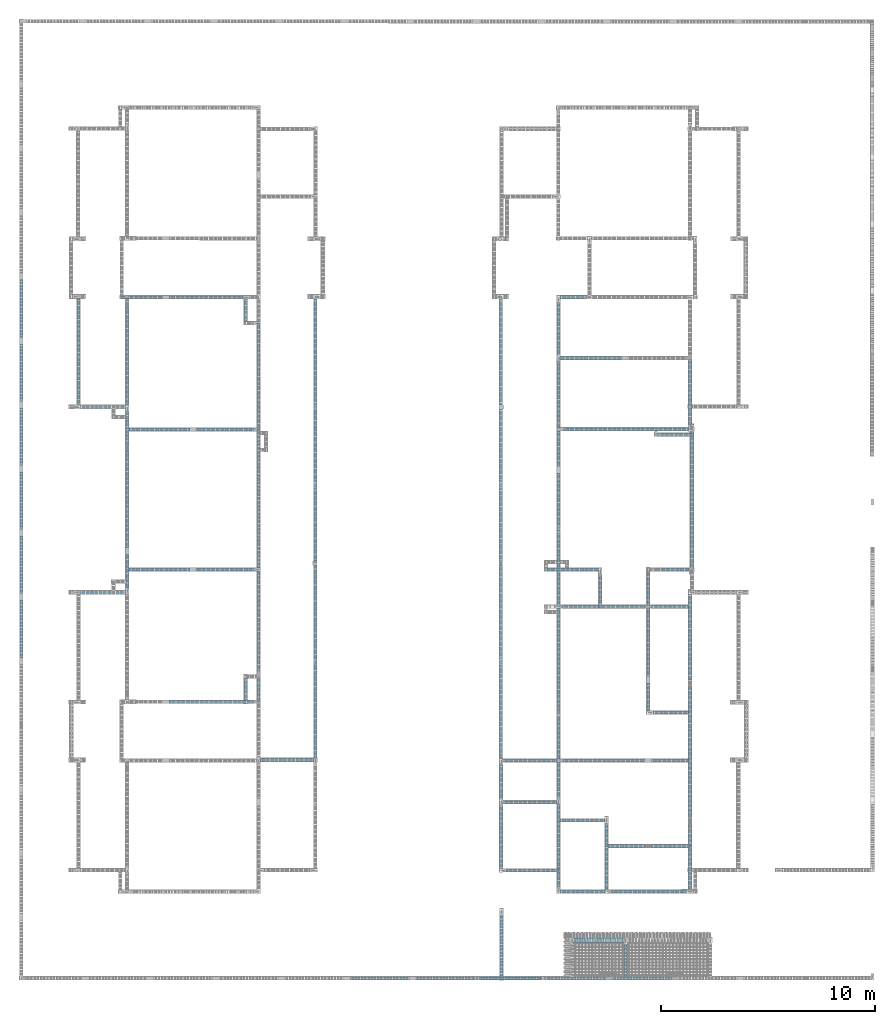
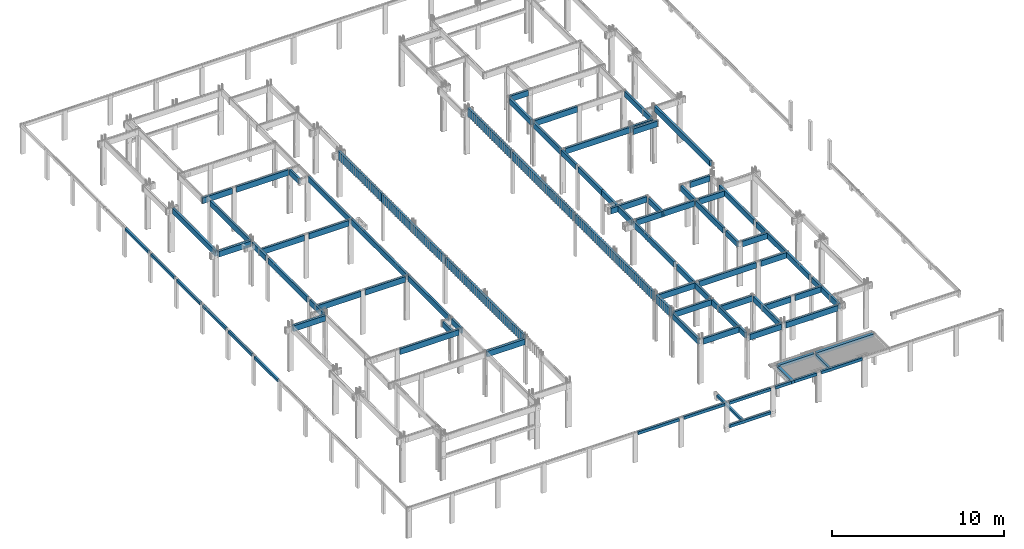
# One storey, part 3 of 236: 85 beams.
"""IFC4 building model written with IfcOpenShell, lengths in centimetres."""

from ifc_helpers import new_model, si_unit, derived_unit, frame, origin_with_axes, origin_2d_with_axis, place, context, project, spatial, rectangle, extrude, material, element, save


model = new_model("IFC4")

# Units and contexts
model_context = context("Model", 3, precision=1e-05, world=origin_with_axes(), identifier="Body")
ifc_project = project(units=[si_unit("LENGTHUNIT", "METRE", prefix="CENTI"), si_unit("VOLUMEUNIT", "CUBIC_METRE"), si_unit("AREAUNIT", "SQUARE_METRE"), si_unit("POWERUNIT", "WATT"), si_unit("LUMINOUSFLUXUNIT", "LUMEN"), si_unit("ELECTRICCURRENTUNIT", "AMPERE"), si_unit("PRESSUREUNIT", "PASCAL", prefix="KILO"), si_unit("MASSUNIT", "GRAM", prefix="KILO"), si_unit("PLANEANGLEUNIT", "RADIAN"), derived_unit("VOLUMETRICFLOWRATEUNIT", [(si_unit("LENGTHUNIT", "METRE"), 3), (si_unit("TIMEUNIT", "SECOND"), -1)])], contexts=[model_context])

# Site, building, storey
site_placement = place(None, frame((-4000.0, 0.0, 0.0), z_axis=(0.0, 0.0, 1.0), x_axis=(1.0, 0.0, 0.0)))
site = spatial("IfcSite", under=ifc_project, at=site_placement, Name="PADRÃO")
building_placement = place(site_placement, frame((0.0, 0.0, -14.0)))
building = spatial("IfcBuilding", under=site, at=building_placement, Name="CRECHE PRÉ-ESCOLA TIPO 2")
placement_1 = place(building_placement, origin_with_axes())
placement_2 = place(placement_1, frame((0.0, 0.0, 30.0), z_axis=(0.0, 0.0, 1.0), x_axis=(1.0, 0.0, 0.0)))
storey_placement = place(placement_2, frame((0.0, 0.0, 310.0), z_axis=(0.0, 0.0, 1.0), x_axis=(1.0, 0.0, 0.0)))
storey = spatial("IfcBuildingStorey", under=building, at=storey_placement, Name="TERREO", CompositionType="ELEMENT", Elevation=326.0)

# Beams
ifc_material = material(Name="Concreto")
beam_1_placement = place(storey_placement, frame((873.0, 3197.49, 0.0), z_axis=(0.0, 0.0, 1.0), x_axis=(1.0, 0.0, 0.0)))
element("IfcBeam", 1, at=beam_1_placement, inside=storey, material=ifc_material, Name="V216", context=model_context, shape_type="SolidModel", body=[
    extrude(rectangle(XDim=14.0, YDim=40.0, at=origin_2d_with_axis()), frame((-173.0, 0.0, -20.0), z_axis=(1.0, 0.0, 0.0), x_axis=(0.0, 1.0, 0.0)), (0.0, 0.0, 1.0), 346.0),
])
beam_2_placement = place(storey_placement, frame((571.095, 3197.49, 0.0), z_axis=(0.0, 0.0, 1.0), x_axis=(1.0, 0.0, 0.0)))
element("IfcBeam", 2, at=beam_2_placement, inside=storey, material=ifc_material, Name="V216", context=model_context, shape_type="SolidModel", body=[
    extrude(rectangle(XDim=14.0, YDim=40.0, at=origin_2d_with_axis()), frame((-98.905, 0.0, -20.0), z_axis=(1.0, 0.0, 0.0), x_axis=(0.0, 1.0, 0.0)), (0.0, 0.0, 1.0), 197.81),
])
beam_3_placement = place(storey_placement, frame((2591.75, 3197.52, 0.0), z_axis=(0.0, 0.0, 1.0), x_axis=(1.0, 0.0, 0.0)))
element("IfcBeam", 3, at=beam_3_placement, inside=storey, material=ifc_material, Name="V219", context=model_context, shape_type="SolidModel", body=[
    extrude(rectangle(XDim=14.0, YDim=40.0, at=origin_2d_with_axis()), frame((-61.25, 0.0, -20.0), z_axis=(1.0, 0.0, 0.0), x_axis=(0.0, 1.0, 0.0)), (0.0, 0.0, 1.0), 122.5),
])
beam_4_placement = place(storey_placement, frame((2674.75, 2912.52, 0.0), z_axis=(0.0, 0.0, 1.0), x_axis=(1.0, 0.0, 0.0)))
element("IfcBeam", 4, at=beam_4_placement, inside=storey, material=ifc_material, Name="V222", context=model_context, shape_type="SolidModel", body=[
    extrude(rectangle(XDim=14.0, YDim=40.0, at=origin_2d_with_axis()), frame((-144.25, 0.0, -20.0), z_axis=(1.0, 0.0, 0.0), x_axis=(0.0, 1.0, 0.0)), (0.0, 0.0, 1.0), 288.5),
])
beam_5_placement = place(storey_placement, frame((389.845, 2683.51, 0.0), z_axis=(0.0, 0.0, 1.0), x_axis=(1.0, 0.0, 0.0)))
element("IfcBeam", 5, at=beam_5_placement, inside=storey, material=ifc_material, Name="V223", context=model_context, shape_type="SolidModel", body=[
    extrude(rectangle(XDim=17.0, YDim=40.0, at=origin_2d_with_axis()), frame((-106.845, 0.0, -20.0), z_axis=(1.0, 0.0, 0.0), x_axis=(0.0, 1.0, 0.0)), (0.0, 0.0, 1.0), 213.69),
])
beam_6_placement = place(storey_placement, frame((650.04, 2577.5, 0.0), z_axis=(0.0, 0.0, 1.0), x_axis=(1.0, 0.0, 0.0)))
element("IfcBeam", 6, at=beam_6_placement, inside=storey, material=ifc_material, Name="V226", context=model_context, shape_type="SolidModel", body=[
    extrude(rectangle(XDim=14.0, YDim=40.0, at=origin_2d_with_axis()), frame((-146.35, 0.0, -20.0), z_axis=(1.0, 0.0, 0.0), x_axis=(0.0, 1.0, 0.0)), (0.0, 0.0, 1.0), 292.7),
])
beam_7_placement = place(storey_placement, frame((960.555, 2577.5, 0.0), z_axis=(0.0, 0.0, 1.0), x_axis=(1.0, 0.0, 0.0)))
element("IfcBeam", 7, at=beam_7_placement, inside=storey, material=ifc_material, Name="V226", context=model_context, shape_type="SolidModel", body=[
    extrude(rectangle(XDim=14.0, YDim=40.0, at=origin_2d_with_axis()), frame((-134.165, 0.0, -20.0), z_axis=(1.0, 0.0, 0.0), x_axis=(0.0, 1.0, 0.0)), (0.0, 0.0, 1.0), 268.33),
])
beam_8_placement = place(storey_placement, frame((2763.0, 2578.52, 0.0), z_axis=(0.0, 0.0, 1.0), x_axis=(1.0, 0.0, 0.0)))
element("IfcBeam", 8, at=beam_8_placement, inside=storey, material=ifc_material, Name="V228", context=model_context, shape_type="SolidModel", body=[
    extrude(rectangle(XDim=14.0, YDim=40.0, at=origin_2d_with_axis()), frame((-216.5, 0.0, -20.0), z_axis=(1.0, 0.0, 0.0), x_axis=(0.0, 1.0, 0.0)), (0.0, 0.0, 1.0), 433.0),
])
beam_9_placement = place(storey_placement, frame((3056.26, 2578.52, 0.0), z_axis=(0.0, 0.0, 1.0), x_axis=(1.0, 0.0, 0.0)))
element("IfcBeam", 9, at=beam_9_placement, inside=storey, material=ifc_material, Name="V228", context=model_context, shape_type="SolidModel", body=[
    extrude(rectangle(XDim=14.0, YDim=40.0, at=origin_2d_with_axis()), frame((-76.76, 0.0, -20.0), z_axis=(1.0, 0.0, 0.0), x_axis=(0.0, 1.0, 0.0)), (0.0, 0.0, 1.0), 153.52),
])
beam_10_placement = place(storey_placement, frame((3067.01, 2553.52, 0.0), z_axis=(0.0, 0.0, 1.0), x_axis=(1.0, 0.0, 0.0)))
element("IfcBeam", 10, at=beam_10_placement, inside=storey, material=ifc_material, Name="V229", context=model_context, shape_type="SolidModel", body=[
    extrude(rectangle(XDim=14.0, YDim=40.0, at=origin_2d_with_axis()), frame((-80.51, 0.0, -20.0), z_axis=(1.0, 0.0, 0.0), x_axis=(0.0, 1.0, 0.0)), (0.0, 0.0, 1.0), 161.02),
])
beam_11_placement = place(storey_placement, frame((650.04, 1922.5, 0.0), z_axis=(0.0, 0.0, 1.0), x_axis=(1.0, 0.0, 0.0)))
element("IfcBeam", 11, at=beam_11_placement, inside=storey, material=ifc_material, Name="V231", context=model_context, shape_type="SolidModel", body=[
    extrude(rectangle(XDim=14.0, YDim=40.0, at=origin_2d_with_axis()), frame((-146.35, 0.0, -20.0), z_axis=(1.0, 0.0, 0.0), x_axis=(0.0, 1.0, 0.0)), (0.0, 0.0, 1.0), 292.7),
])
beam_12_placement = place(storey_placement, frame((960.555, 1922.5, 0.0), z_axis=(0.0, 0.0, 1.0), x_axis=(1.0, 0.0, 0.0)))
element("IfcBeam", 12, at=beam_12_placement, inside=storey, material=ifc_material, Name="V231", context=model_context, shape_type="SolidModel", body=[
    extrude(rectangle(XDim=14.0, YDim=40.0, at=origin_2d_with_axis()), frame((-134.165, 0.0, -20.0), z_axis=(1.0, 0.0, 0.0), x_axis=(0.0, 1.0, 0.0)), (0.0, 0.0, 1.0), 268.33),
])
beam_13_placement = place(storey_placement, frame((2591.62400910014, 1922.48599061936, 0.0), z_axis=(0.0, 0.0, 1.0), x_axis=(1.0, 0.0, 0.0)))
element("IfcBeam", 13, at=beam_13_placement, inside=storey, material=ifc_material, Name="V232", context=model_context, shape_type="SolidModel", body=[
    extrude(rectangle(XDim=14.0, YDim=40.0, at=origin_2d_with_axis()), frame((-120.12599089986, -0.034009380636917, -20.0), z_axis=(1.0, 0.000283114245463, 0.0), x_axis=(-0.000283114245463, 1.0, 0.0)), (0.0, 0.0, 1.0), 240.251991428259),
])
beam_14_placement = place(storey_placement, frame((3067.76, 1922.52, 0.0), z_axis=(0.0, 0.0, 1.0), x_axis=(1.0, 0.0, 0.0)))
element("IfcBeam", 14, at=beam_14_placement, inside=storey, material=ifc_material, Name="V234", context=model_context, shape_type="SolidModel", body=[
    extrude(rectangle(XDim=14.0, YDim=40.0, at=origin_2d_with_axis()), frame((-65.26, 0.0, -20.0), z_axis=(1.0, 0.0, 0.0), x_axis=(0.0, 1.0, 0.0)), (0.0, 0.0, 1.0), 130.52),
])
beam_15_placement = place(storey_placement, frame((388.845, 1815.0, 0.0), z_axis=(0.0, 0.0, 1.0), x_axis=(1.0, 0.0, 0.0)))
element("IfcBeam", 15, at=beam_15_placement, inside=storey, material=ifc_material, Name="V236", context=model_context, shape_type="SolidModel", body=[
    extrude(rectangle(XDim=17.0, YDim=40.0, at=origin_2d_with_axis()), frame((-107.845, 0.0, -20.0), z_axis=(1.0, 0.0, 0.0), x_axis=(0.0, 1.0, 0.0)), (0.0, 0.0, 1.0), 215.69),
])
beam_16_placement = place(storey_placement, frame((2734.62, 1747.84, 0.0), z_axis=(0.0, 0.0, 1.0), x_axis=(1.0, 0.0, 0.0)))
element("IfcBeam", 16, at=beam_16_placement, inside=storey, material=ifc_material, Name="V238", context=model_context, shape_type="SolidModel", body=[
    extrude(rectangle(XDim=14.0, YDim=40.0, at=origin_2d_with_axis()), frame((-193.62, 0.0, -20.0), z_axis=(1.0, 0.0, 0.0), x_axis=(0.0, 1.0, 0.0)), (0.0, 0.0, 1.0), 387.24),
])
beam_17_placement = place(storey_placement, frame((3044.87, 1747.84, 0.0), z_axis=(0.0, 0.0, 1.0), x_axis=(1.0, 0.0, 0.0)))
element("IfcBeam", 17, at=beam_17_placement, inside=storey, material=ifc_material, Name="V238", context=model_context, shape_type="SolidModel", body=[
    extrude(rectangle(XDim=14.0, YDim=40.0, at=origin_2d_with_axis()), frame((-86.63, 0.0, -20.0), z_axis=(1.0, 0.0, 0.0), x_axis=(0.0, 1.0, 0.0)), (0.0, 0.0, 1.0), 173.26),
])
beam_18_placement = place(storey_placement, frame((897.36, 1302.5, 0.0), z_axis=(0.0, 0.0, 1.0), x_axis=(1.0, 0.0, 0.0)))
element("IfcBeam", 18, at=beam_18_placement, inside=storey, material=ifc_material, Name="V242", context=model_context, shape_type="SolidModel", body=[
    extrude(rectangle(XDim=14.0, YDim=40.0, at=origin_2d_with_axis()), frame((-197.36, 0.0, -20.0), z_axis=(1.0, 0.0, 0.0), x_axis=(0.0, 1.0, 0.0)), (0.0, 0.0, 1.0), 394.72),
])
beam_19_placement = place(storey_placement, frame((3048.87, 1252.52, 0.0), z_axis=(0.0, 0.0, 1.0), x_axis=(1.0, 0.0, 0.0)))
element("IfcBeam", 19, at=beam_19_placement, inside=storey, material=ifc_material, Name="V243", context=model_context, shape_type="SolidModel", body=[
    extrude(rectangle(XDim=14.0, YDim=40.0, at=origin_2d_with_axis()), frame((-82.63, 0.0, -20.0), z_axis=(1.0, 0.0, 0.0), x_axis=(0.0, 1.0, 0.0)), (0.0, 0.0, 1.0), 165.26),
])
beam_20_placement = place(storey_placement, frame((1251.78, 1030.01, 0.0), z_axis=(0.0, 0.0, 1.0), x_axis=(1.0, 0.0, 0.0)))
element("IfcBeam", 20, at=beam_20_placement, inside=storey, material=ifc_material, Name="V247", context=model_context, shape_type="SolidModel", body=[
    extrude(rectangle(XDim=17.0, YDim=40.0, at=origin_2d_with_axis()), frame((-126.06, 0.0, -20.0), z_axis=(1.0, 0.0, 0.0), x_axis=(0.0, 1.0, 0.0)), (0.0, 0.0, 1.0), 252.12),
])
beam_21_placement = place(storey_placement, frame((3044.87, 1027.52, 0.0), z_axis=(0.0, 0.0, 1.0), x_axis=(1.0, 0.0, 0.0)))
element("IfcBeam", 21, at=beam_21_placement, inside=storey, material=ifc_material, Name="V248", context=model_context, shape_type="SolidModel", body=[
    extrude(rectangle(XDim=14.0, YDim=40.0, at=origin_2d_with_axis()), frame((-86.63, 0.0, -20.0), z_axis=(1.0, 0.0, 0.0), x_axis=(0.0, 1.0, 0.0)), (0.0, 0.0, 1.0), 173.26),
])
beam_22_placement = place(storey_placement, frame((2737.37, 1027.52, 0.0), z_axis=(0.0, 0.0, 1.0), x_axis=(1.0, 0.0, 0.0)))
element("IfcBeam", 22, at=beam_22_placement, inside=storey, material=ifc_material, Name="V248", context=model_context, shape_type="SolidModel", body=[
    extrude(rectangle(XDim=14.0, YDim=40.0, at=origin_2d_with_axis()), frame((-190.87, 0.0, -20.0), z_axis=(1.0, 0.0, 0.0), x_axis=(0.0, 1.0, 0.0)), (0.0, 0.0, 1.0), 381.74),
])
for number, where, z_axis, x_axis, name in (
    (23, (2388.995, 1027.52, 0.0), (0.0, 0.0, 1.0), (1.0, 0.0, 0.0), "V248"),
    (24, (2388.995, 832.52, 0.0), (0.0, 0.0, 1.0), (1.0, 0.0, 0.0), "V250"),
):
    element("IfcBeam", number, at=place(storey_placement, frame(where, z_axis=z_axis, x_axis=x_axis)), inside=storey, material=ifc_material, Name=name, context=model_context, shape_type="SolidModel", body=[
        extrude(rectangle(XDim=14.0, YDim=40.0, at=origin_2d_with_axis()), frame((-127.505, 0.0, -20.0), z_axis=(1.0, 0.0, 0.0), x_axis=(0.0, 1.0, 0.0)), (0.0, 0.0, 1.0), 255.01),
    ])
beam_23_placement = place(storey_placement, frame((2635.51, 747.59, 0.0), z_axis=(0.0, 0.0, 1.0), x_axis=(1.0, 0.0, 0.0)))
element("IfcBeam", 25, at=beam_23_placement, inside=storey, material=ifc_material, Name="V251", context=model_context, shape_type="SolidModel", body=[
    extrude(rectangle(XDim=14.0, YDim=40.0, at=origin_2d_with_axis()), frame((-105.01, 0.0, -20.0), z_axis=(1.0, 0.0, 0.0), x_axis=(0.0, 1.0, 0.0)), (0.0, 0.0, 1.0), 210.02),
])
beam_24_placement = place(storey_placement, frame((3048.475, 627.58, 0.0), z_axis=(0.0, 0.0, 1.0), x_axis=(1.0, 0.0, 0.0)))
element("IfcBeam", 26, at=beam_24_placement, inside=storey, material=ifc_material, Name="V252", context=model_context, shape_type="SolidModel", body=[
    extrude(rectangle(XDim=14.0, YDim=40.0, at=origin_2d_with_axis()), frame((-90.025, 0.0, -20.0), z_axis=(1.0, 0.0, 0.0), x_axis=(0.0, 1.0, 0.0)), (0.0, 0.0, 1.0), 180.05),
])
beam_25_placement = place(storey_placement, frame((2841.955, 627.58, 0.0), z_axis=(0.0, 0.0, 1.0), x_axis=(1.0, 0.0, 0.0)))
element("IfcBeam", 27, at=beam_25_placement, inside=storey, material=ifc_material, Name="V252", context=model_context, shape_type="SolidModel", body=[
    extrude(rectangle(XDim=14.0, YDim=40.0, at=origin_2d_with_axis()), frame((-86.495, 0.0, -20.0), z_axis=(1.0, 0.0, 0.0), x_axis=(0.0, 1.0, 0.0)), (0.0, 0.0, 1.0), 172.99),
])
beam_26_placement = place(storey_placement, frame((2400.49, 513.52, 0.0), z_axis=(0.0, 0.0, 1.0), x_axis=(1.0, 0.0, 0.0)))
element("IfcBeam", 28, at=beam_26_placement, inside=storey, material=ifc_material, Name="V255", context=model_context, shape_type="SolidModel", body=[
    extrude(rectangle(XDim=14.0, YDim=40.0, at=origin_2d_with_axis()), frame((-123.01, 0.0, -20.0), z_axis=(1.0, 0.0, 0.0), x_axis=(0.0, 1.0, 0.0)), (0.0, 0.0, 1.0), 246.02),
])
beam_27_placement = place(storey_placement, frame((2635.98, 415.01, 0.0), z_axis=(0.0, 0.0, 1.0), x_axis=(1.0, 0.0, 0.0)))
element("IfcBeam", 29, at=beam_27_placement, inside=storey, material=ifc_material, Name="V258", context=model_context, shape_type="SolidModel", body=[
    extrude(rectangle(XDim=14.0, YDim=40.0, at=origin_2d_with_axis()), frame((-105.48, 0.0, -20.0), z_axis=(1.0, 0.0, 0.0), x_axis=(0.0, 1.0, 0.0)), (0.0, 0.0, 1.0), 210.96),
])
beam_28_placement = place(storey_placement, frame((2946.23, 415.01, 0.0), z_axis=(0.0, 0.0, 1.0), x_axis=(1.0, 0.0, 0.0)))
element("IfcBeam", 30, at=beam_28_placement, inside=storey, material=ifc_material, Name="V258", context=model_context, shape_type="SolidModel", body=[
    extrude(rectangle(XDim=14.0, YDim=40.0, at=origin_2d_with_axis()), frame((-174.77, 0.0, -20.0), z_axis=(1.0, 0.0, 0.0), x_axis=(0.0, 1.0, 0.0)), (0.0, 0.0, 1.0), 349.54),
])
beam_29_placement = place(storey_placement, frame((276.0, 2942.005, 0.0), z_axis=(0.0, 0.0, 1.0), x_axis=(1.0, 0.0, 0.0)))
element("IfcBeam", 31, at=beam_29_placement, inside=storey, material=ifc_material, Name="V262", context=model_context, shape_type="SolidModel", body=[
    extrude(rectangle(XDim=14.0, YDim=40.0, at=origin_2d_with_axis()), frame((0.0, -249.995, -20.0), z_axis=(0.0, 1.0, 0.0), x_axis=(-1.0, 0.0, 0.0)), (0.0, 0.0, 1.0), 499.99),
])
beam_30_placement = place(storey_placement, frame((503.69, 2919.255, 0.0), z_axis=(0.0, 0.0, 1.0), x_axis=(1.0, 0.0, 0.0)))
element("IfcBeam", 32, at=beam_30_placement, inside=storey, material=ifc_material, Name="V270", context=model_context, shape_type="SolidModel", body=[
    extrude(rectangle(XDim=14.0, YDim=40.0, at=origin_2d_with_axis()), frame((0.0, -227.245, -20.0), z_axis=(0.0, 1.0, 0.0), x_axis=(-1.0, 0.0, 0.0)), (0.0, 0.0, 1.0), 454.49),
])
beam_31_placement = place(storey_placement, frame((503.69, 1915.0, 0.0), z_axis=(0.0, 0.0, 1.0), x_axis=(1.0, 0.0, 0.0)))
element("IfcBeam", 33, at=beam_31_placement, inside=storey, material=ifc_material, Name="V270", context=model_context, shape_type="SolidModel", body=[
    extrude(rectangle(XDim=14.0, YDim=40.0, at=origin_2d_with_axis()), frame((0.0, -78.5, -20.0), z_axis=(0.0, 1.0, 0.0), x_axis=(-1.0, 0.0, 0.0)), (0.0, 0.0, 1.0), 157.0),
])
beam_32_placement = place(storey_placement, frame((503.69, 2250.0, 0.0), z_axis=(0.0, 0.0, 1.0), x_axis=(1.0, 0.0, 0.0)))
element("IfcBeam", 34, at=beam_32_placement, inside=storey, material=ifc_material, Name="V270", context=model_context, shape_type="SolidModel", body=[
    extrude(rectangle(XDim=14.0, YDim=40.0, at=origin_2d_with_axis()), frame((0.0, -226.5, -20.0), z_axis=(0.0, 1.0, 0.0), x_axis=(-1.0, 0.0, 0.0)), (0.0, 0.0, 1.0), 453.0),
])
beam_33_placement = place(storey_placement, frame((503.69, 2584.255, 0.0), z_axis=(0.0, 0.0, 1.0), x_axis=(1.0, 0.0, 0.0)))
element("IfcBeam", 35, at=beam_33_placement, inside=storey, material=ifc_material, Name="V270", context=model_context, shape_type="SolidModel", body=[
    extrude(rectangle(XDim=14.0, YDim=40.0, at=origin_2d_with_axis()), frame((0.0, -77.755, -20.0), z_axis=(0.0, 1.0, 0.0), x_axis=(-1.0, 0.0, 0.0)), (0.0, 0.0, 1.0), 155.51),
])
beam_34_placement = place(storey_placement, frame((1058.5, 1362.0, 0.0), z_axis=(0.0, 0.0, 1.0), x_axis=(1.0, 0.0, 0.0)))
element("IfcBeam", 36, at=beam_34_placement, inside=storey, material=ifc_material, Name="V274", context=model_context, shape_type="SolidModel", body=[
    extrude(rectangle(XDim=14.0, YDim=40.0, at=origin_2d_with_axis()), frame((0.0, -52.5, -20.0), z_axis=(0.0, 1.0, 0.0), x_axis=(1.0, 0.0, 0.0)), (0.0, 0.0, 1.0), 105.0),
])
beam_35_placement = place(storey_placement, frame((1058.5, 3136.995, 0.0), z_axis=(0.0, 0.0, 1.0), x_axis=(1.0, 0.0, 0.0)))
element("IfcBeam", 37, at=beam_35_placement, inside=storey, material=ifc_material, Name="V275", context=model_context, shape_type="SolidModel", body=[
    extrude(rectangle(XDim=14.0, YDim=40.0, at=origin_2d_with_axis()), frame((0.0, -53.495, -20.0), z_axis=(0.0, 1.0, 0.0), x_axis=(-1.0, 0.0, 0.0)), (0.0, 0.0, 1.0), 106.99),
])
beam_36_placement = place(storey_placement, frame((1118.72, 1359.0, 0.0), z_axis=(0.0, 0.0, 1.0), x_axis=(1.0, 0.0, 0.0)))
element("IfcBeam", 38, at=beam_36_placement, inside=storey, material=ifc_material, Name="V277", context=model_context, shape_type="SolidModel", body=[
    extrude(rectangle(XDim=14.0, YDim=40.0, at=origin_2d_with_axis()), frame((0.0, -56.5, -20.0), z_axis=(0.0, 1.0, 0.0), x_axis=(1.0, 0.0, 0.0)), (0.0, 0.0, 1.0), 113.0),
])
beam_37_placement = place(storey_placement, frame((1118.72, 1680.5, 0.0), z_axis=(0.0, 0.0, 1.0), x_axis=(1.0, 0.0, 0.0)))
element("IfcBeam", 39, at=beam_37_placement, inside=storey, material=ifc_material, Name="V277", context=model_context, shape_type="SolidModel", body=[
    extrude(rectangle(XDim=14.0, YDim=40.0, at=origin_2d_with_axis()), frame((0.0, -235.0, -20.0), z_axis=(0.0, 1.0, 0.0), x_axis=(1.0, 0.0, 0.0)), (0.0, 0.0, 1.0), 470.0),
])
beam_38_placement = place(storey_placement, frame((1118.72, 2253.5, 0.0), z_axis=(0.0, 0.0, 1.0), x_axis=(1.0, 0.0, 0.0)))
element("IfcBeam", 40, at=beam_38_placement, inside=storey, material=ifc_material, Name="V278", context=model_context, shape_type="SolidModel", body=[
    extrude(rectangle(XDim=14.0, YDim=40.0, at=origin_2d_with_axis()), frame((0.0, -324.0, -20.0), z_axis=(0.0, 1.0, 0.0), x_axis=(-1.0, 0.0, 0.0)), (0.0, 0.0, 1.0), 648.0),
])
beam_39_placement = place(storey_placement, frame((1118.72, 2827.0, 0.0), z_axis=(0.0, 0.0, 1.0), x_axis=(1.0, 0.0, 0.0)))
element("IfcBeam", 41, at=beam_39_placement, inside=storey, material=ifc_material, Name="V278", context=model_context, shape_type="SolidModel", body=[
    extrude(rectangle(XDim=14.0, YDim=40.0, at=origin_2d_with_axis()), frame((0.0, -249.5, -20.0), z_axis=(0.0, 1.0, 0.0), x_axis=(-1.0, 0.0, 0.0)), (0.0, 0.0, 1.0), 499.0),
])
beam_40_placement = place(storey_placement, frame((1384.84, 1490.505, 20.0), z_axis=(0.0, 0.0, 1.0), x_axis=(1.0, 0.0, 0.0)))
element("IfcBeam", 42, at=beam_40_placement, inside=storey, material=ifc_material, Name="V283", context=model_context, shape_type="SolidModel", body=[
    extrude(rectangle(XDim=14.0, YDim=60.0, at=origin_2d_with_axis()), frame((0.0, -451.995, -30.0), z_axis=(0.0, 1.0, 0.0), x_axis=(1.0, 0.0, 0.0)), (0.0, 0.0, 1.0), 903.99),
])
beam_41_placement = place(storey_placement, frame((1384.84, 2323.005, 20.0), z_axis=(0.0, 0.0, 1.0), x_axis=(1.0, 0.0, 0.0)))
element("IfcBeam", 43, at=beam_41_placement, inside=storey, material=ifc_material, Name="V284", context=model_context, shape_type="SolidModel", body=[
    extrude(rectangle(XDim=14.0, YDim=60.0, at=origin_2d_with_axis()), frame((0.0, -360.505, -30.0), z_axis=(0.0, 1.0, 0.0), x_axis=(1.0, 0.0, 0.0)), (0.0, 0.0, 1.0), 721.01),
])
beam_42_placement = place(storey_placement, frame((1384.84, 2937.515, 20.0), z_axis=(0.0, 0.0, 1.0), x_axis=(1.0, 0.0, 0.0)))
element("IfcBeam", 44, at=beam_42_placement, inside=storey, material=ifc_material, Name="V284", context=model_context, shape_type="SolidModel", body=[
    extrude(rectangle(XDim=14.0, YDim=60.0, at=origin_2d_with_axis()), frame((0.0, -254.005, -30.0), z_axis=(0.0, 1.0, 0.0), x_axis=(-1.0, 0.0, 0.0)), (0.0, 0.0, 1.0), 508.01),
])
beam_43_placement = place(storey_placement, frame((2254.48, 669.02, 0.0), z_axis=(0.0, 0.0, 1.0), x_axis=(1.0, 0.0, 0.0)))
element("IfcBeam", 45, at=beam_43_placement, inside=storey, material=ifc_material, Name="V287", context=model_context, shape_type="SolidModel", body=[
    extrude(rectangle(XDim=14.0, YDim=40.0, at=origin_2d_with_axis()), frame((0.0, -148.5, -20.0), z_axis=(0.0, 1.0, 0.0), x_axis=(1.0, 0.0, 0.0)), (0.0, 0.0, 1.0), 297.0),
])
beam_44_placement = place(storey_placement, frame((2254.49, 928.015, 20.0), z_axis=(0.0, 0.0, 1.0), x_axis=(1.0, 0.0, 0.0)))
element("IfcBeam", 46, at=beam_44_placement, inside=storey, material=ifc_material, Name="V288", context=model_context, shape_type="SolidModel", body=[
    extrude(rectangle(XDim=14.0, YDim=60.0, at=origin_2d_with_axis()), frame((0.0, -80.495, -30.0), z_axis=(0.0, 1.0, 0.0), x_axis=(1.0, 0.0, 0.0)), (0.0, 0.0, 1.0), 160.99),
])
beam_45_placement = place(storey_placement, frame((2253.49, 1490.505, 20.0), z_axis=(0.0, 0.0, 1.0), x_axis=(1.0, 0.0, 0.0)))
element("IfcBeam", 47, at=beam_45_placement, inside=storey, material=ifc_material, Name="V289", context=model_context, shape_type="SolidModel", body=[
    extrude(rectangle(XDim=14.0, YDim=60.0, at=origin_2d_with_axis()), frame((0.0, -451.995, -30.0), z_axis=(0.0, 1.0, 0.0), x_axis=(1.0, 0.0, 0.0)), (0.0, 0.0, 1.0), 903.99),
])
beam_46_placement = place(storey_placement, frame((2253.49, 2318.005, 20.0), z_axis=(0.0, 0.0, 1.0), x_axis=(1.0, 0.0, 0.0)))
element("IfcBeam", 48, at=beam_46_placement, inside=storey, material=ifc_material, Name="V290", context=model_context, shape_type="SolidModel", body=[
    extrude(rectangle(XDim=14.0, YDim=60.0, at=origin_2d_with_axis()), frame((0.0, -355.505, -30.0), z_axis=(0.0, 1.0, 0.0), x_axis=(1.0, 0.0, 0.0)), (0.0, 0.0, 1.0), 711.01),
])
beam_47_placement = place(storey_placement, frame((2253.49, 2942.515, 20.0), z_axis=(0.0, 0.0, 1.0), x_axis=(1.0, 0.0, 0.0)))
element("IfcBeam", 49, at=beam_47_placement, inside=storey, material=ifc_material, Name="V290", context=model_context, shape_type="SolidModel", body=[
    extrude(rectangle(XDim=14.0, YDim=60.0, at=origin_2d_with_axis()), frame((0.0, -249.005, -30.0), z_axis=(0.0, 1.0, 0.0), x_axis=(1.0, 0.0, 0.0)), (0.0, 0.0, 1.0), 498.01),
])
beam_48_placement = place(storey_placement, frame((2523.5, 1503.96, 0.0), z_axis=(0.0, 0.0, 1.0), x_axis=(1.0, 0.0, 0.0)))
element("IfcBeam", 50, at=beam_48_placement, inside=storey, material=ifc_material, Name="V296", context=model_context, shape_type="SolidModel", body=[
    extrude(rectangle(XDim=14.0, YDim=40.0, at=origin_2d_with_axis()), frame((0.0, -236.88, -20.0), z_axis=(0.0, 1.0, 0.0), x_axis=(1.0, 0.0, 0.0)), (0.0, 0.0, 1.0), 473.76),
])
beam_49_placement = place(storey_placement, frame((2523.5, 938.52, 0.0), z_axis=(0.0, 0.0, 1.0), x_axis=(1.0, 0.0, 0.0)))
element("IfcBeam", 51, at=beam_49_placement, inside=storey, material=ifc_material, Name="V296", context=model_context, shape_type="SolidModel", body=[
    extrude(rectangle(XDim=14.0, YDim=40.0, at=origin_2d_with_axis()), frame((0.0, -82.0, -20.0), z_axis=(0.0, 1.0, 0.0), x_axis=(1.0, 0.0, 0.0)), (0.0, 0.0, 1.0), 164.0),
])
beam_50_placement = place(storey_placement, frame((2523.5, 632.27, 0.0), z_axis=(0.0, 0.0, 1.0), x_axis=(1.0, 0.0, 0.0)))
element("IfcBeam", 52, at=beam_50_placement, inside=storey, material=ifc_material, Name="V296", context=model_context, shape_type="SolidModel", body=[
    extrude(rectangle(XDim=14.0, YDim=40.0, at=origin_2d_with_axis()), frame((0.0, -194.25, -20.0), z_axis=(0.0, 1.0, 0.0), x_axis=(1.0, 0.0, 0.0)), (0.0, 0.0, 1.0), 388.5),
])
beam_51_placement = place(storey_placement, frame((2523.5, 1135.8, 0.0), z_axis=(0.0, 0.0, 1.0), x_axis=(1.0, 0.0, 0.0)))
element("IfcBeam", 53, at=beam_51_placement, inside=storey, material=ifc_material, Name="V296", context=model_context, shape_type="SolidModel", body=[
    extrude(rectangle(XDim=14.0, YDim=40.0, at=origin_2d_with_axis()), frame((0.0, -101.28, -20.0), z_axis=(0.0, 1.0, 0.0), x_axis=(1.0, 0.0, 0.0)), (0.0, 0.0, 1.0), 202.56),
])
beam_52_placement = place(storey_placement, frame((2523.5, 3050.27, 0.0), z_axis=(0.0, 0.0, 1.0), x_axis=(1.0, 0.0, 0.0)))
element("IfcBeam", 54, at=beam_52_placement, inside=storey, material=ifc_material, Name="V297", context=model_context, shape_type="SolidModel", body=[
    extrude(rectangle(XDim=14.0, YDim=40.0, at=origin_2d_with_axis()), frame((0.0, -124.25, -20.0), z_axis=(0.0, 1.0, 0.0), x_axis=(1.0, 0.0, 0.0)), (0.0, 0.0, 1.0), 248.5),
])
beam_53_placement = place(storey_placement, frame((2523.5, 2488.395, 0.0), z_axis=(0.0, 0.0, 1.0), x_axis=(1.0, 0.0, 0.0)))
element("IfcBeam", 55, at=beam_53_placement, inside=storey, material=ifc_material, Name="V297", context=model_context, shape_type="SolidModel", body=[
    extrude(rectangle(XDim=14.0, YDim=40.0, at=origin_2d_with_axis()), frame((0.0, -83.125, -20.0), z_axis=(0.0, 1.0, 0.0), x_axis=(1.0, 0.0, 0.0)), (0.0, 0.0, 1.0), 166.25),
])
beam_54_placement = place(storey_placement, frame((2523.5, 2240.395, 0.0), z_axis=(0.0, 0.0, 1.0), x_axis=(1.0, 0.0, 0.0)))
element("IfcBeam", 56, at=beam_54_placement, inside=storey, material=ifc_material, Name="V297", context=model_context, shape_type="SolidModel", body=[
    extrude(rectangle(XDim=14.0, YDim=40.0, at=origin_2d_with_axis()), frame((0.0, -134.875, -20.0), z_axis=(0.0, 1.0, 0.0), x_axis=(1.0, 0.0, 0.0)), (0.0, 0.0, 1.0), 269.75),
])
beam_55_placement = place(storey_placement, frame((2523.5, 1930.18, 0.0), z_axis=(0.0, 0.0, 1.0), x_axis=(1.0, 0.0, 0.0)))
element("IfcBeam", 57, at=beam_55_placement, inside=storey, material=ifc_material, Name="V297", context=model_context, shape_type="SolidModel", body=[
    extrude(rectangle(XDim=14.0, YDim=40.0, at=origin_2d_with_axis()), frame((0.0, -175.34, -20.0), z_axis=(0.0, 1.0, 0.0), x_axis=(1.0, 0.0, 0.0)), (0.0, 0.0, 1.0), 350.68),
])
beam_56_placement = place(storey_placement, frame((2523.5, 2740.77, 0.0), z_axis=(0.0, 0.0, 1.0), x_axis=(1.0, 0.0, 0.0)))
element("IfcBeam", 58, at=beam_56_placement, inside=storey, material=ifc_material, Name="V297", context=model_context, shape_type="SolidModel", body=[
    extrude(rectangle(XDim=14.0, YDim=40.0, at=origin_2d_with_axis()), frame((0.0, -155.25, -20.0), z_axis=(0.0, 1.0, 0.0), x_axis=(1.0, 0.0, 0.0)), (0.0, 0.0, 1.0), 310.5),
])
beam_57_placement = place(storey_placement, frame((2748.46, 578.045, 0.0), z_axis=(0.0, 0.0, 1.0), x_axis=(1.0, 0.0, 0.0)))
element("IfcBeam", 59, at=beam_57_placement, inside=storey, material=ifc_material, Name="V301", context=model_context, shape_type="SolidModel", body=[
    extrude(rectangle(XDim=14.0, YDim=40.0, at=origin_2d_with_axis()), frame((0.0, -156.035, -20.0), z_axis=(0.0, 1.0, 0.0), x_axis=(1.0, 0.0, 0.0)), (0.0, 0.0, 1.0), 312.07),
])
beam_58_placement = place(storey_placement, frame((2718.75, 1820.18, 0.0), z_axis=(0.0, 0.0, 1.0), x_axis=(1.0, 0.0, 0.0)))
element("IfcBeam", 60, at=beam_58_placement, inside=storey, material=ifc_material, Name="V302", context=model_context, shape_type="SolidModel", body=[
    extrude(rectangle(XDim=14.0, YDim=40.0, at=origin_2d_with_axis()), frame((0.0, -79.34, -20.0), z_axis=(0.0, 1.0, 0.0), x_axis=(1.0, 0.0, 0.0)), (0.0, 0.0, 1.0), 158.68),
])
beam_59_placement = place(storey_placement, frame((2943.24, 1835.18, 0.0), z_axis=(0.0, 0.0, 1.0), x_axis=(1.0, 0.0, 0.0)))
element("IfcBeam", 61, at=beam_59_placement, inside=storey, material=ifc_material, Name="V303", context=model_context, shape_type="SolidModel", body=[
    extrude(rectangle(XDim=14.0, YDim=40.0, at=origin_2d_with_axis()), frame((0.0, -80.34, -20.0), z_axis=(0.0, 1.0, 0.0), x_axis=(1.0, 0.0, 0.0)), (0.0, 0.0, 1.0), 160.68),
])
beam_60_placement = place(storey_placement, frame((2943.24, 1581.175, 0.0), z_axis=(0.0, 0.0, 1.0), x_axis=(1.0, 0.0, 0.0)))
element("IfcBeam", 62, at=beam_60_placement, inside=storey, material=ifc_material, Name="V303", context=model_context, shape_type="SolidModel", body=[
    extrude(rectangle(XDim=14.0, YDim=40.0, at=origin_2d_with_axis()), frame((0.0, -159.665, -20.0), z_axis=(0.0, 1.0, 0.0), x_axis=(1.0, 0.0, 0.0)), (0.0, 0.0, 1.0), 319.33),
])
beam_61_placement = place(storey_placement, frame((2943.24, 1325.515, 0.0), z_axis=(0.0, 0.0, 1.0), x_axis=(1.0, 0.0, 0.0)))
element("IfcBeam", 63, at=beam_61_placement, inside=storey, material=ifc_material, Name="V303", context=model_context, shape_type="SolidModel", body=[
    extrude(rectangle(XDim=14.0, YDim=40.0, at=origin_2d_with_axis()), frame((0.0, -65.995, -20.0), z_axis=(0.0, 1.0, 0.0), x_axis=(1.0, 0.0, 0.0)), (0.0, 0.0, 1.0), 131.99),
])
beam_62_placement = place(storey_placement, frame((3138.5, 1068.05, 0.0), z_axis=(0.0, 0.0, 1.0), x_axis=(1.0, 0.0, 0.0)))
element("IfcBeam", 64, at=beam_62_placement, inside=storey, material=ifc_material, Name="V305", context=model_context, shape_type="SolidModel", body=[
    extrude(rectangle(XDim=14.0, YDim=40.0, at=origin_2d_with_axis()), frame((0.0, -306.47, -20.0), z_axis=(0.0, 1.0, 0.0), x_axis=(1.0, 0.0, 0.0)), (0.0, 0.0, 1.0), 612.94),
])
beam_63_placement = place(storey_placement, frame((3138.5, 1605.52, 0.0), z_axis=(0.0, 0.0, 1.0), x_axis=(1.0, 0.0, 0.0)))
element("IfcBeam", 65, at=beam_63_placement, inside=storey, material=ifc_material, Name="V305", context=model_context, shape_type="SolidModel", body=[
    extrude(rectangle(XDim=14.0, YDim=40.0, at=origin_2d_with_axis()), frame((0.0, -201.0, -20.0), z_axis=(0.0, 1.0, 0.0), x_axis=(1.0, 0.0, 0.0)), (0.0, 0.0, 1.0), 402.0),
])
beam_64_placement = place(storey_placement, frame((3138.5, 576.795, 0.0), z_axis=(0.0, 0.0, 1.0), x_axis=(1.0, 0.0, 0.0)))
element("IfcBeam", 66, at=beam_64_placement, inside=storey, material=ifc_material, Name="V305", context=model_context, shape_type="SolidModel", body=[
    extrude(rectangle(XDim=14.0, YDim=40.0, at=origin_2d_with_axis()), frame((0.0, -154.785, -20.0), z_axis=(0.0, 1.0, 0.0), x_axis=(1.0, 0.0, 0.0)), (0.0, 0.0, 1.0), 309.57),
])
beam_65_placement = place(storey_placement, frame((3147.52, 2250.02, 95.0), z_axis=(0.0, 0.0, 1.0), x_axis=(1.0, 0.0, 0.0)))
element("IfcBeam", 67, at=beam_65_placement, inside=storey, material=ifc_material, Name="V307", context=model_context, shape_type="SolidModel", body=[
    extrude(rectangle(XDim=15.0, YDim=40.0, at=origin_2d_with_axis()), frame((0.0, -321.5, -20.0), z_axis=(0.0, 1.0, 0.0), x_axis=(1.0, 0.0, 0.0)), (0.0, 0.0, 1.0), 643.0),
])
beam_66_placement = place(storey_placement, frame((3138.5, 2753.52, 0.0), z_axis=(0.0, 0.0, 1.0), x_axis=(1.0, 0.0, 0.0)))
element("IfcBeam", 68, at=beam_66_placement, inside=storey, material=ifc_material, Name="V308", context=model_context, shape_type="SolidModel", body=[
    extrude(rectangle(XDim=14.0, YDim=40.0, at=origin_2d_with_axis()), frame((0.0, -152.0, -20.0), z_axis=(0.0, 1.0, 0.0), x_axis=(1.0, 0.0, 0.0)), (0.0, 0.0, 1.0), 304.0),
])
beam_67_placement = place(storey_placement, frame((2709.475, 187.5, -100.0), z_axis=(0.0, 0.0, 1.0), x_axis=(1.0, 0.0, 0.0)))
element("IfcBeam", 69, at=beam_67_placement, inside=storey, material=ifc_material, Name="V322", context=model_context, shape_type="SolidModel", body=[
    extrude(rectangle(XDim=20.0, YDim=20.0, at=origin_2d_with_axis()), frame((-121.015, 0.0, -10.0), z_axis=(1.0, 0.0, 0.0), x_axis=(0.0, 1.0, 0.0)), (0.0, 0.0, 1.0), 242.03),
])
beam_68_placement = place(storey_placement, frame((3035.74, 187.5, -100.0), z_axis=(0.0, 0.0, 1.0), x_axis=(1.0, 0.0, 0.0)))
element("IfcBeam", 70, at=beam_68_placement, inside=storey, material=ifc_material, Name="V322", context=model_context, shape_type="SolidModel", body=[
    extrude(rectangle(XDim=20.0, YDim=20.0, at=origin_2d_with_axis()), frame((-191.25, 0.0, -10.0), z_axis=(1.0, 0.0, 0.0), x_axis=(0.0, 1.0, 0.0)), (0.0, 0.0, 1.0), 382.5),
])
for number, where, z_axis, x_axis, name in (
    (71, (2300.0, 9.0, -100.0), (0.0, 0.0, 1.0), (1.0, 0.0, 0.0), "V323"),
    (72, (1686.0, 9.0, -100.0), (0.0, 0.0, 1.0), (1.0, 0.0, 0.0), "V323"),
    (73, (2607.0, 9.0, -100.0), (0.0, 0.0, 1.0), (1.0, 0.0, 0.0), "V323"),
    (74, (2914.0, 9.0, -100.0), (0.0, 0.0, 1.0), (1.0, 0.0, 0.0), "V323"),
    (75, (1993.0, 9.0, -100.0), (0.0, 0.0, 1.0), (1.0, 0.0, 0.0), "V323"),
):
    element("IfcBeam", number, at=place(storey_placement, frame(where, z_axis=z_axis, x_axis=x_axis)), inside=storey, material=ifc_material, Name=name, context=model_context, shape_type="SolidModel", body=[
        extrude(rectangle(XDim=14.0, YDim=20.0, at=origin_2d_with_axis()), frame((-138.5, 0.0, -10.0), z_axis=(1.0, 0.0, 0.0), x_axis=(0.0, 1.0, 0.0)), (0.0, 0.0, 1.0), 277.0),
    ])
for number, where, z_axis, x_axis, name in (
    (76, (8.5, 2544.5, -100.0), (0.0, 0.0, 1.0), (1.0, 0.0, 0.0), "V324"),
    (77, (8.5, 3144.5, -100.0), (0.0, 0.0, 1.0), (1.0, 0.0, 0.0), "V324"),
    (78, (8.5, 1644.5, -100.0), (0.0, 0.0, 1.0), (1.0, 0.0, 0.0), "V324"),
    (79, (8.5, 2244.5, -100.0), (0.0, 0.0, 1.0), (1.0, 0.0, 0.0), "V324"),
    (80, (8.5, 1944.5, -100.0), (0.0, 0.0, 1.0), (1.0, 0.0, 0.0), "V324"),
    (81, (8.5, 2844.5, -100.0), (0.0, 0.0, 1.0), (1.0, 0.0, 0.0), "V324"),
):
    element("IfcBeam", number, at=place(storey_placement, frame(where, z_axis=z_axis, x_axis=x_axis)), inside=storey, material=ifc_material, Name=name, context=model_context, shape_type="SolidModel", body=[
        extrude(rectangle(XDim=14.0, YDim=20.0, at=origin_2d_with_axis()), frame((0.0, -135.0, -10.0), z_axis=(0.0, 1.0, 0.0), x_axis=(-1.0, 0.0, 0.0)), (0.0, 0.0, 1.0), 270.0),
    ])
beam_69_placement = place(storey_placement, frame((2585.46, 84.75, -100.0), z_axis=(0.0, 0.0, 1.0), x_axis=(1.0, 0.0, 0.0)))
element("IfcBeam", 82, at=beam_69_placement, inside=storey, material=ifc_material, Name="V325", context=model_context, shape_type="SolidModel", body=[
    extrude(rectangle(XDim=20.0, YDim=20.0, at=origin_2d_with_axis()), frame((0.0, -82.75, -10.0), z_axis=(0.0, 1.0, 0.0), x_axis=(1.0, 0.0, 0.0)), (0.0, 0.0, 1.0), 165.5),
])
beam_70_placement = place(storey_placement, frame((2837.49, 91.75, -100.0), z_axis=(0.0, 0.0, 1.0), x_axis=(1.0, 0.0, 0.0)))
element("IfcBeam", 83, at=beam_70_placement, inside=storey, material=ifc_material, Name="V326", context=model_context, shape_type="SolidModel", body=[
    extrude(rectangle(XDim=14.0, YDim=20.0, at=origin_2d_with_axis()), frame((0.0, -75.75, -10.0), z_axis=(0.0, 1.0, 0.0), x_axis=(1.0, 0.0, 0.0)), (0.0, 0.0, 1.0), 151.5),
])
beam_71_placement = place(storey_placement, frame((2300.0, 8.0, -265.0), z_axis=(0.0, 0.0, 1.0), x_axis=(1.0, 0.0, 0.0)))
element("IfcBeam", 84, at=beam_71_placement, inside=storey, material=ifc_material, Name="V329", context=model_context, shape_type="SolidModel", body=[
    extrude(rectangle(XDim=14.0, YDim=20.0, at=origin_2d_with_axis()), frame((-138.5, 0.0, -10.0), z_axis=(1.0, 0.0, 0.0), x_axis=(0.0, 1.0, 0.0)), (0.0, 0.0, 1.0), 277.0),
])
beam_72_placement = place(storey_placement, frame((2255.98, 156.01, -265.0), z_axis=(0.0, 0.0, 1.0), x_axis=(1.0, 0.0, 0.0)))
element("IfcBeam", 85, at=beam_72_placement, inside=storey, material=ifc_material, Name="V330", context=model_context, shape_type="SolidModel", body=[
    extrude(rectangle(XDim=14.0, YDim=20.0, at=origin_2d_with_axis()), frame((0.0, -148.01, -10.0), z_axis=(0.0, 1.0, 0.0), x_axis=(1.0, 0.0, 0.0)), (0.0, 0.0, 1.0), 296.02),
])

save(model, "model.ifc")
